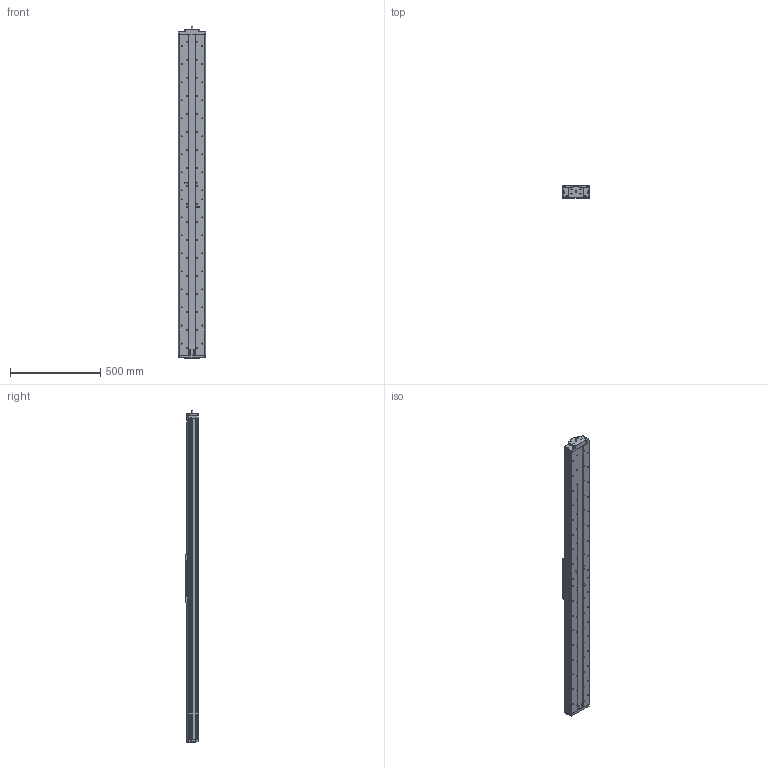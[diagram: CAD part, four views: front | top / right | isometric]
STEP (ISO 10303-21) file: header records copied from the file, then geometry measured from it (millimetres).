
FILE_DESCRIPTION((''),'2;1');
FILE_NAME('406XR-12_ASM','2002-07-12T',('FKrakosh'),(''),'PRO/ENGINEER BY PARAMETRIC TECHNOLOGY CORPORATION, 2000420','PRO/ENGINEER BY PARAMETRIC TECHNOLOGY CORPORATION, 2000420','');
FILE_SCHEMA(('CONFIG_CONTROL_DESIGN'));
Length unit declared in the file: millimetre
Products named in the file (8): 406XR-BASE-12; 406XR-REAR-END-BLK; 406XR-CARRIAGE; 10853610-01; 406XR-FEB-10MM; 10426110; 30321911; 406XR-12_ASM
Assembly tree (8 placements, depth 2):
  406XR-12_ASM
    406XR-BASE-12
    406XR-REAR-END-BLK
    406XR-CARRIAGE
    10853610-01  x2
    406XR-FEB-10MM
    10426110
    30321911
Bounding box: 150 x 69.9 x 1842.73 mm (x, y, z)
Volume: 15452373.3 mm3; surface area: 1073826.9 mm2
Topology: 8 solids, 82 shells, 1092 faces, 2668 edges, 1796 vertices
Faces by surface type: cylinder 590, plane 472, bspline 16, sphere 12, cone 2
Entity records: 31044 total; most frequent: CARTESIAN_POINT 6452, DIRECTION 5510, ORIENTED_EDGE 4534, EDGE_CURVE 2411, AXIS2_PLACEMENT_3D 2181, VERTEX_POINT 1639, EDGE_LOOP 1254, CIRCLE 1175
